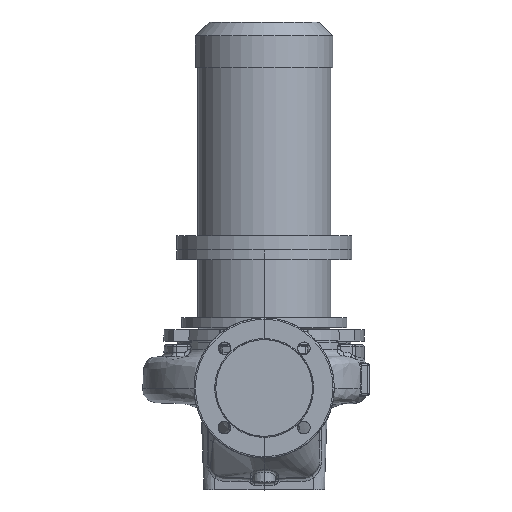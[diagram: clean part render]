
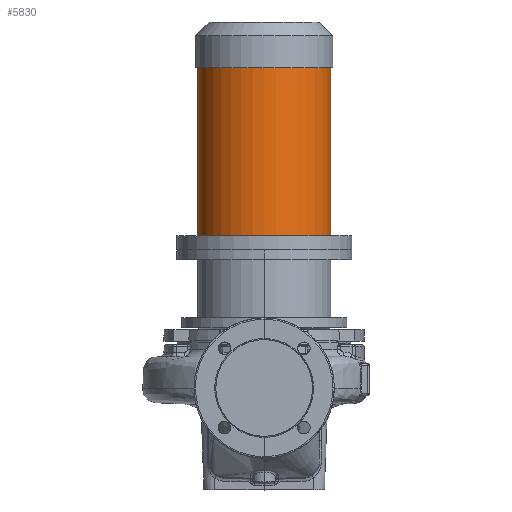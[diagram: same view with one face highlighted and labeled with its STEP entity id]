
A CAD part, top view. The second image highlights one B-rep face of the part: STEP entity #5830.
In plain terms, the highlighted cylindrical face has radius 95 mm (diameter 190 mm), a partial arc.
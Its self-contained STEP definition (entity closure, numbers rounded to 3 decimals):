
#827 = DIRECTION ( 'NONE',  ( 0., -1., 0. ) ) ;
#1247 = EDGE_CURVE ( 'NONE', #13452, #18261, #14997, .T. ) ;
#1403 = CARTESIAN_POINT ( 'NONE',  ( -95., 197.3, 0. ) ) ;
#1895 = ORIENTED_EDGE ( 'NONE', *, *, #9647, .F. ) ;
#5830 = ADVANCED_FACE ( 'NONE', ( #61664 ), #17099, .T. ) ;
#7054 = VERTEX_POINT ( 'NONE', #68445 ) ;
#7528 = DIRECTION ( 'NONE',  ( 0., -1., 0. ) ) ;
#9647 = EDGE_CURVE ( 'NONE', #7054, #26503, #61112, .T. ) ;
#11394 = CARTESIAN_POINT ( 'NONE',  ( 95., 197.3, 0. ) ) ;
#13452 = VERTEX_POINT ( 'NONE', #29668 ) ;
#14997 = LINE ( 'NONE', #1403, #53426 ) ;
#17099 = CYLINDRICAL_SURFACE ( 'NONE', #42285, 95. ) ;
#18044 = CIRCLE ( 'NONE', #57577, 95. ) ;
#18261 = VERTEX_POINT ( 'NONE', #58359 ) ;
#20457 = CIRCLE ( 'NONE', #24697, 95. ) ;
#22713 = VECTOR ( 'NONE', #24059, 1000. ) ;
#23400 = CARTESIAN_POINT ( 'NONE',  ( 0., 457.3, 0. ) ) ;
#24059 = DIRECTION ( 'NONE',  ( 0., -1., 0. ) ) ;
#24520 = EDGE_CURVE ( 'NONE', #7054, #13452, #18044, .T. ) ;
#24697 = AXIS2_PLACEMENT_3D ( 'NONE', #51278, #827, #62726 ) ;
#26503 = VERTEX_POINT ( 'NONE', #45076 ) ;
#29426 = DIRECTION ( 'NONE',  ( 0., -1., 0. ) ) ;
#29668 = CARTESIAN_POINT ( 'NONE',  ( -95., 457.3, 0. ) ) ;
#29841 = EDGE_LOOP ( 'NONE', ( #1895, #32759, #51370, #47455 ) ) ;
#30054 = EDGE_CURVE ( 'NONE', #26503, #18261, #20457, .T. ) ;
#32759 = ORIENTED_EDGE ( 'NONE', *, *, #24520, .T. ) ;
#37869 = DIRECTION ( 'NONE',  ( 0., -1., 0. ) ) ;
#42285 = AXIS2_PLACEMENT_3D ( 'NONE', #60332, #37869, #48837 ) ;
#45076 = CARTESIAN_POINT ( 'NONE',  ( 95., 217.3, 0. ) ) ;
#47455 = ORIENTED_EDGE ( 'NONE', *, *, #30054, .F. ) ;
#48837 = DIRECTION ( 'NONE',  ( -1., 0., 0. ) ) ;
#51278 = CARTESIAN_POINT ( 'NONE',  ( 0., 217.3, 0. ) ) ;
#51370 = ORIENTED_EDGE ( 'NONE', *, *, #1247, .T. ) ;
#51896 = DIRECTION ( 'NONE',  ( -1., 0., 0. ) ) ;
#53426 = VECTOR ( 'NONE', #29426, 1000. ) ;
#57577 = AXIS2_PLACEMENT_3D ( 'NONE', #23400, #7528, #51896 ) ;
#58359 = CARTESIAN_POINT ( 'NONE',  ( -95., 217.3, 0. ) ) ;
#60332 = CARTESIAN_POINT ( 'NONE',  ( 0., 197.3, 0. ) ) ;
#61112 = LINE ( 'NONE', #11394, #22713 ) ;
#61664 = FACE_OUTER_BOUND ( 'NONE', #29841, .T. ) ;
#62726 = DIRECTION ( 'NONE',  ( -1., 0., 0. ) ) ;
#68445 = CARTESIAN_POINT ( 'NONE',  ( 95., 457.3, 0. ) ) ;
